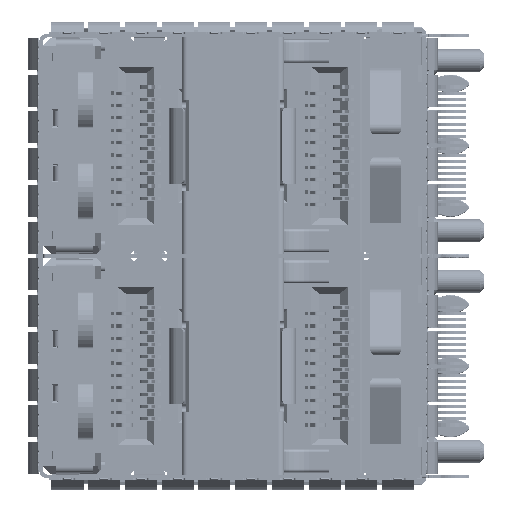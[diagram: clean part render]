
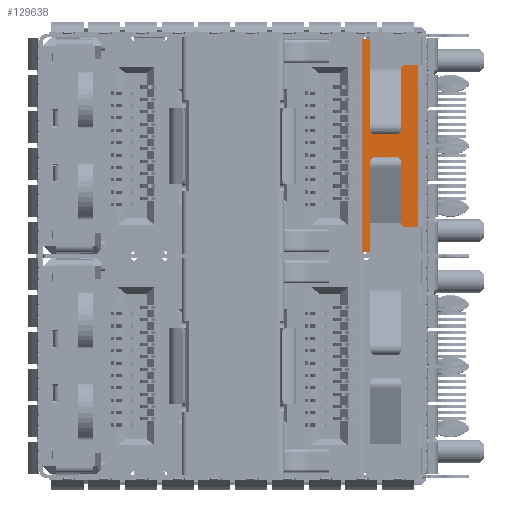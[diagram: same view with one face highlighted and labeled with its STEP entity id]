
A CAD part, left-side view. The second image highlights one B-rep face of the part: STEP entity #129638.
In plain terms, the highlighted planar face has unit normal (-1, 0, 0) as drawn and (0, 0, 1) by its records, which use the part's own axes.
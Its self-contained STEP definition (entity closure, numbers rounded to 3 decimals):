
#6144 = CARTESIAN_POINT ( 'NONE',  ( 6.87, 4.8, -9.65 ) ) ;
#6146 = DIRECTION ( 'NONE',  ( 0., -1., 0. ) ) ;
#18204 = EDGE_CURVE ( 'NONE', #123660, #123529, #65792, .T. ) ;
#62222 = FACE_OUTER_BOUND ( 'NONE', #63263, .T. ) ;
#63263 = EDGE_LOOP ( 'NONE', ( #241657, #241812, #242022, #241595, #241835, #241890, #241918, #241880 ) ) ;
#65739 = VECTOR ( 'NONE', #177769, 1000. ) ;
#65792 = LINE ( 'NONE', #177771, #65739 ) ;
#69796 = CARTESIAN_POINT ( 'NONE',  ( -5.37, 2.5, -9.65 ) ) ;
#69816 = DIRECTION ( 'NONE',  ( -1., 0., 0. ) ) ;
#69889 = DIRECTION ( 'NONE',  ( 0., -1., 0. ) ) ;
#69940 = CARTESIAN_POINT ( 'NONE',  ( -5.37, 2.5, -9.65 ) ) ;
#69969 = CARTESIAN_POINT ( 'NONE',  ( 0., 4.625, -9.65 ) ) ;
#69972 = DIRECTION ( 'NONE',  ( -1., 0., 0. ) ) ;
#70085 = CARTESIAN_POINT ( 'NONE',  ( 5.37, 2.5, -9.65 ) ) ;
#70087 = DIRECTION ( 'NONE',  ( -1., 0., 0. ) ) ;
#70294 = CARTESIAN_POINT ( 'NONE',  ( -6.98, 1., -9.65 ) ) ;
#70345 = DIRECTION ( 'NONE',  ( 1., 0., 0. ) ) ;
#96852 = VERTEX_POINT ( 'NONE', #121860 ) ;
#97079 = VERTEX_POINT ( 'NONE', #121792 ) ;
#121792 = CARTESIAN_POINT ( 'NONE',  ( 5.37, 2.5, -9.65 ) ) ;
#121860 = CARTESIAN_POINT ( 'NONE',  ( 5.37, 1., -9.65 ) ) ;
#123529 = VERTEX_POINT ( 'NONE', #312728 ) ;
#123660 = VERTEX_POINT ( 'NONE', #312760 ) ;
#129638 = ADVANCED_FACE ( 'NONE', ( #62222 ), #317900, .T. ) ;
#167832 = VECTOR ( 'NONE', #69889, 1000. ) ;
#167864 = VECTOR ( 'NONE', #6146, 1000. ) ;
#167916 = LINE ( 'NONE', #69940, #167968 ) ;
#167922 = LINE ( 'NONE', #6144, #167864 ) ;
#167965 = LINE ( 'NONE', #69796, #167832 ) ;
#167968 = VECTOR ( 'NONE', #69816, 1000. ) ;
#168038 = VECTOR ( 'NONE', #70345, 1000. ) ;
#168053 = VECTOR ( 'NONE', #70087, 1000. ) ;
#168099 = LINE ( 'NONE', #69969, #168104 ) ;
#168104 = VECTOR ( 'NONE', #69972, 1000. ) ;
#168122 = LINE ( 'NONE', #70294, #168038 ) ;
#168147 = LINE ( 'NONE', #70085, #168053 ) ;
#177769 = DIRECTION ( 'NONE',  ( 0., 1., 0. ) ) ;
#177771 = CARTESIAN_POINT ( 'NONE',  ( -6.87, 4.8, -9.65 ) ) ;
#212023 = CARTESIAN_POINT ( 'NONE',  ( 5.37, 2.5, -9.65 ) ) ;
#212069 = DIRECTION ( 'NONE',  ( 0., -1., 0. ) ) ;
#215523 = LINE ( 'NONE', #212023, #215667 ) ;
#215667 = VECTOR ( 'NONE', #212069, 1000. ) ;
#226041 = EDGE_CURVE ( 'NONE', #242755, #242414, #167922, .T. ) ;
#226075 = EDGE_CURVE ( 'NONE', #242603, #242854, #167965, .T. ) ;
#226090 = EDGE_CURVE ( 'NONE', #242603, #123660, #167916, .T. ) ;
#226139 = EDGE_CURVE ( 'NONE', #242414, #97079, #168147, .T. ) ;
#226149 = EDGE_CURVE ( 'NONE', #242755, #123529, #168099, .T. ) ;
#226205 = EDGE_CURVE ( 'NONE', #242854, #96852, #168122, .T. ) ;
#241595 = ORIENTED_EDGE ( 'NONE', *, *, #226139, .F. ) ;
#241657 = ORIENTED_EDGE ( 'NONE', *, *, #226075, .T. ) ;
#241812 = ORIENTED_EDGE ( 'NONE', *, *, #226205, .T. ) ;
#241835 = ORIENTED_EDGE ( 'NONE', *, *, #226041, .F. ) ;
#241880 = ORIENTED_EDGE ( 'NONE', *, *, #226090, .F. ) ;
#241890 = ORIENTED_EDGE ( 'NONE', *, *, #226149, .T. ) ;
#241918 = ORIENTED_EDGE ( 'NONE', *, *, #18204, .F. ) ;
#242022 = ORIENTED_EDGE ( 'NONE', *, *, #250230, .F. ) ;
#242414 = VERTEX_POINT ( 'NONE', #261849 ) ;
#242603 = VERTEX_POINT ( 'NONE', #262124 ) ;
#242755 = VERTEX_POINT ( 'NONE', #262287 ) ;
#242854 = VERTEX_POINT ( 'NONE', #262351 ) ;
#250230 = EDGE_CURVE ( 'NONE', #97079, #96852, #215523, .T. ) ;
#261849 = CARTESIAN_POINT ( 'NONE',  ( 6.87, 2.5, -9.65 ) ) ;
#262124 = CARTESIAN_POINT ( 'NONE',  ( -5.37, 2.5, -9.65 ) ) ;
#262287 = CARTESIAN_POINT ( 'NONE',  ( 6.87, 4.625, -9.65 ) ) ;
#262351 = CARTESIAN_POINT ( 'NONE',  ( -5.37, 1., -9.65 ) ) ;
#312728 = CARTESIAN_POINT ( 'NONE',  ( -6.87, 4.625, -9.65 ) ) ;
#312760 = CARTESIAN_POINT ( 'NONE',  ( -6.87, 2.5, -9.65 ) ) ;
#317875 = CARTESIAN_POINT ( 'NONE',  ( 0., 0., -9.65 ) ) ;
#317877 = DIRECTION ( 'NONE',  ( 0., 0., 1. ) ) ;
#317900 = PLANE ( 'NONE',  #321154 ) ;
#317901 = DIRECTION ( 'NONE',  ( 1., 0., 0. ) ) ;
#321154 = AXIS2_PLACEMENT_3D ( 'NONE', #317875, #317877, #317901 ) ;
